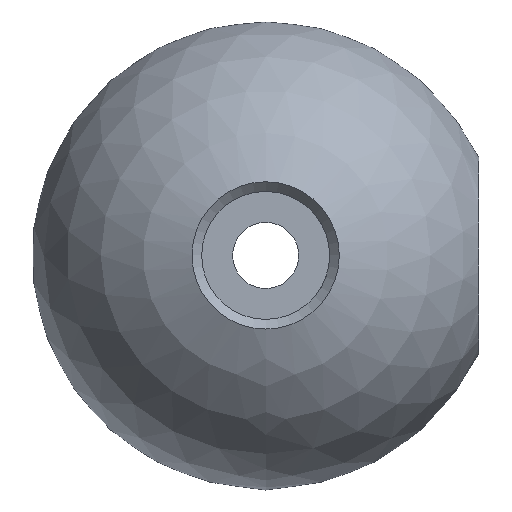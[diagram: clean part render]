
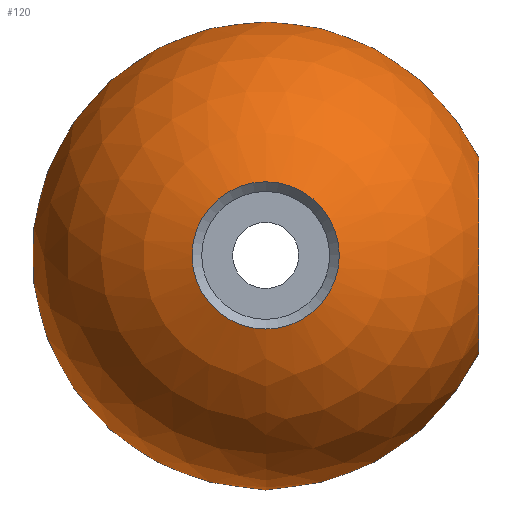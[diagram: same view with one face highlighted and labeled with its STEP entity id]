
A CAD part, front view. The second image highlights one B-rep face of the part: STEP entity #120.
In plain terms, the highlighted spherical face has radius 11 mm.
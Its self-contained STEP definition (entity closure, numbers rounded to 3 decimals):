
#112=SPHERICAL_SURFACE('',#296,11.);
#120=ADVANCED_FACE('',(#143,#144,#145),#112,.T.);
#143=FACE_BOUND('',#175,.T.);
#144=FACE_BOUND('',#176,.T.);
#145=FACE_BOUND('',#177,.T.);
#175=EDGE_LOOP('',(#207));
#176=EDGE_LOOP('',(#208));
#177=EDGE_LOOP('',(#209));
#207=ORIENTED_EDGE('',*,*,#255,.T.);
#208=ORIENTED_EDGE('',*,*,#256,.F.);
#209=ORIENTED_EDGE('',*,*,#254,.T.);
#238=VERTEX_POINT('',#397);
#239=VERTEX_POINT('',#400);
#240=VERTEX_POINT('',#402);
#254=EDGE_CURVE('',#238,#238,#272,.T.);
#255=EDGE_CURVE('',#239,#239,#273,.T.);
#256=EDGE_CURVE('',#240,#240,#274,.T.);
#272=CIRCLE('',#292,7.5);
#273=CIRCLE('',#294,3.454);
#274=CIRCLE('',#295,4.583);
#292=AXIS2_PLACEMENT_3D('',#396,#335,#336);
#294=AXIS2_PLACEMENT_3D('',#399,#339,#340);
#295=AXIS2_PLACEMENT_3D('',#401,#341,#342);
#296=AXIS2_PLACEMENT_3D('',#403,#343,#344);
#335=DIRECTION('',(0.,-1.,0.));
#336=DIRECTION('',(0.,0.,-1.));
#339=DIRECTION('',(0.,1.,0.));
#340=DIRECTION('',(0.,0.,-1.));
#341=DIRECTION('',(1.,0.,0.));
#342=DIRECTION('',(0.,0.,1.));
#343=DIRECTION('',(0.,-1.,0.));
#344=DIRECTION('',(-1.,0.,0.));
#396=CARTESIAN_POINT('',(0.,3.047,0.));
#397=CARTESIAN_POINT('',(0.,3.047,-7.5));
#399=CARTESIAN_POINT('',(0.,-15.444,0.));
#400=CARTESIAN_POINT('',(0.,-15.444,-3.454));
#401=CARTESIAN_POINT('',(10.,-5.,0.));
#402=CARTESIAN_POINT('',(10.,-5.,4.583));
#403=CARTESIAN_POINT('',(0.,-5.,0.));
